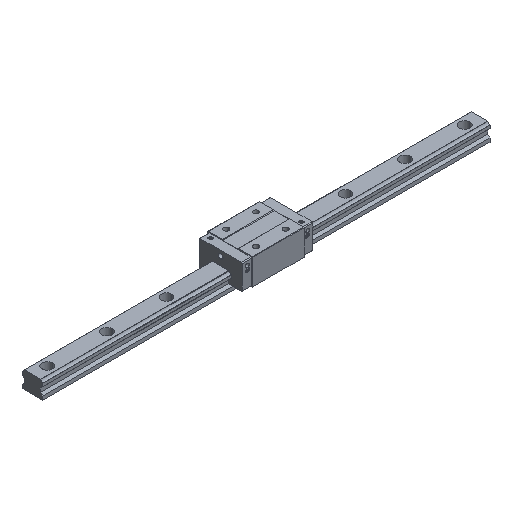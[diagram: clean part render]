
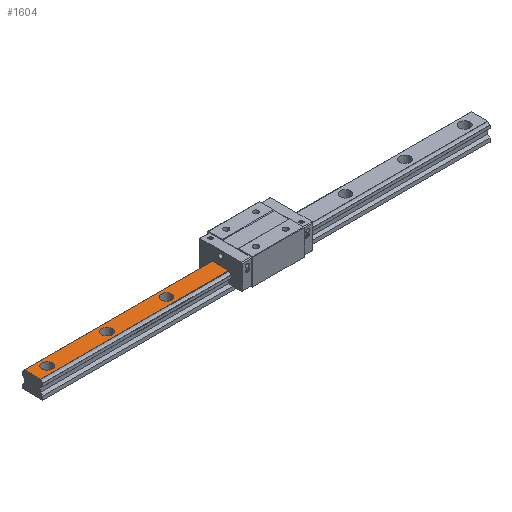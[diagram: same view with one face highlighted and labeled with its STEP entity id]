
A CAD part, isometric view. The second image highlights one B-rep face of the part: STEP entity #1604.
In plain terms, the highlighted planar face has unit normal (0, 0, 1).
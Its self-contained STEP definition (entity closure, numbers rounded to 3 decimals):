
#156 = CIRCLE ( 'NONE', #477, 7. ) ;
#477 = AXIS2_PLACEMENT_3D ( 'NONE', #16711, #18392, #3361 ) ;
#614 = CARTESIAN_POINT ( 'NONE',  ( -207., 0., 23. ) ) ;
#927 = EDGE_CURVE ( 'NONE', #15969, #7639, #14518, .T. ) ;
#1005 = EDGE_CURVE ( 'NONE', #5315, #15320, #11212, .T. ) ;
#1103 = LINE ( 'NONE', #13056, #7012 ) ;
#1184 = CARTESIAN_POINT ( 'NONE',  ( -120., 0., 23. ) ) ;
#1355 = VERTEX_POINT ( 'NONE', #11553 ) ;
#1604 = ADVANCED_FACE ( 'NONE', ( #3982, #19215, #10256, #7406 ), #17528, .F. ) ;
#1619 = CIRCLE ( 'NONE', #4104, 7. ) ;
#2047 = ORIENTED_EDGE ( 'NONE', *, *, #16602, .T. ) ;
#2109 = DIRECTION ( 'NONE',  ( 0., -1., 0. ) ) ;
#2782 = CARTESIAN_POINT ( 'NONE',  ( -300., 11.035, 23. ) ) ;
#3283 = AXIS2_PLACEMENT_3D ( 'NONE', #1184, #8711, #8611 ) ;
#3361 = DIRECTION ( 'NONE',  ( -1., 0., 0. ) ) ;
#3548 = DIRECTION ( 'NONE',  ( 1., 0., 0. ) ) ;
#3653 = ORIENTED_EDGE ( 'NONE', *, *, #9432, .T. ) ;
#3812 = ORIENTED_EDGE ( 'NONE', *, *, #927, .T. ) ;
#3982 = FACE_BOUND ( 'NONE', #15918, .T. ) ;
#4030 = ORIENTED_EDGE ( 'NONE', *, *, #1005, .T. ) ;
#4050 = DIRECTION ( 'NONE',  ( 0., 0., -1. ) ) ;
#4104 = AXIS2_PLACEMENT_3D ( 'NONE', #12573, #8435, #11002 ) ;
#4169 = CIRCLE ( 'NONE', #14176, 7. ) ;
#4817 = VECTOR ( 'NONE', #3548, 1000. ) ;
#5315 = VERTEX_POINT ( 'NONE', #2782 ) ;
#5509 = DIRECTION ( 'NONE',  ( -1., 0., 0. ) ) ;
#5519 = DIRECTION ( 'NONE',  ( -1., 0., 0. ) ) ;
#5586 = ORIENTED_EDGE ( 'NONE', *, *, #19183, .T. ) ;
#5798 = DIRECTION ( 'NONE',  ( 0., -1., 0. ) ) ;
#6061 = VERTEX_POINT ( 'NONE', #15815 ) ;
#6309 = CARTESIAN_POINT ( 'NONE',  ( -280., 0., 23. ) ) ;
#6406 = CIRCLE ( 'NONE', #3283, 7. ) ;
#6493 = LINE ( 'NONE', #12288, #4817 ) ;
#6570 = CARTESIAN_POINT ( 'NONE',  ( -120., 0., 23. ) ) ;
#7012 = VECTOR ( 'NONE', #5798, 1000. ) ;
#7210 = CARTESIAN_POINT ( 'NONE',  ( 300., 0., 23. ) ) ;
#7393 = DIRECTION ( 'NONE',  ( 0., 0., -1. ) ) ;
#7406 = FACE_OUTER_BOUND ( 'NONE', #13678, .T. ) ;
#7634 = CIRCLE ( 'NONE', #10152, 7. ) ;
#7639 = VERTEX_POINT ( 'NONE', #614 ) ;
#7736 = EDGE_CURVE ( 'NONE', #16678, #12828, #1103, .T. ) ;
#8001 = CARTESIAN_POINT ( 'NONE',  ( -287., 0., 23. ) ) ;
#8040 = DIRECTION ( 'NONE',  ( -1., 0., 0. ) ) ;
#8258 = CARTESIAN_POINT ( 'NONE',  ( -47.35, -11.035, 23. ) ) ;
#8291 = EDGE_CURVE ( 'NONE', #15320, #12828, #6493, .T. ) ;
#8386 = EDGE_LOOP ( 'NONE', ( #10164, #16247 ) ) ;
#8435 = DIRECTION ( 'NONE',  ( 0., 0., -1. ) ) ;
#8611 = DIRECTION ( 'NONE',  ( -1., 0., 0. ) ) ;
#8703 = EDGE_LOOP ( 'NONE', ( #3812, #3653 ) ) ;
#8711 = DIRECTION ( 'NONE',  ( 0., 0., -1. ) ) ;
#8760 = AXIS2_PLACEMENT_3D ( 'NONE', #7210, #13011, #13106 ) ;
#9432 = EDGE_CURVE ( 'NONE', #7639, #15969, #156, .T. ) ;
#9617 = CARTESIAN_POINT ( 'NONE',  ( -300., -11.035, 23. ) ) ;
#10133 = AXIS2_PLACEMENT_3D ( 'NONE', #18990, #4050, #5519 ) ;
#10152 = AXIS2_PLACEMENT_3D ( 'NONE', #6309, #7393, #12103 ) ;
#10164 = ORIENTED_EDGE ( 'NONE', *, *, #10449, .T. ) ;
#10256 = FACE_BOUND ( 'NONE', #8386, .T. ) ;
#10449 = EDGE_CURVE ( 'NONE', #18903, #12544, #1619, .T. ) ;
#11002 = DIRECTION ( 'NONE',  ( -1., 0., 0. ) ) ;
#11064 = VECTOR ( 'NONE', #2109, 1000. ) ;
#11110 = ORIENTED_EDGE ( 'NONE', *, *, #13737, .T. ) ;
#11212 = LINE ( 'NONE', #17207, #11064 ) ;
#11553 = CARTESIAN_POINT ( 'NONE',  ( -113., 0., 23. ) ) ;
#12103 = DIRECTION ( 'NONE',  ( -1., 0., 0. ) ) ;
#12288 = CARTESIAN_POINT ( 'NONE',  ( 300., -11.035, 23. ) ) ;
#12302 = ORIENTED_EDGE ( 'NONE', *, *, #7736, .F. ) ;
#12544 = VERTEX_POINT ( 'NONE', #8001 ) ;
#12573 = CARTESIAN_POINT ( 'NONE',  ( -280., 0., 23. ) ) ;
#12828 = VERTEX_POINT ( 'NONE', #8258 ) ;
#12970 = LINE ( 'NONE', #19072, #18003 ) ;
#13011 = DIRECTION ( 'NONE',  ( 0., 0., -1. ) ) ;
#13056 = CARTESIAN_POINT ( 'NONE',  ( -47.35, -11.035, 23. ) ) ;
#13106 = DIRECTION ( 'NONE',  ( 0., -1., 0. ) ) ;
#13678 = EDGE_LOOP ( 'NONE', ( #16108, #12302, #5586, #4030 ) ) ;
#13737 = EDGE_CURVE ( 'NONE', #6061, #1355, #4169, .T. ) ;
#14176 = AXIS2_PLACEMENT_3D ( 'NONE', #6570, #15521, #8040 ) ;
#14518 = CIRCLE ( 'NONE', #10133, 7. ) ;
#15320 = VERTEX_POINT ( 'NONE', #9617 ) ;
#15521 = DIRECTION ( 'NONE',  ( 0., 0., -1. ) ) ;
#15676 = CARTESIAN_POINT ( 'NONE',  ( -193., 0., 23. ) ) ;
#15815 = CARTESIAN_POINT ( 'NONE',  ( -127., 0., 23. ) ) ;
#15918 = EDGE_LOOP ( 'NONE', ( #2047, #11110 ) ) ;
#15969 = VERTEX_POINT ( 'NONE', #15676 ) ;
#16108 = ORIENTED_EDGE ( 'NONE', *, *, #8291, .T. ) ;
#16247 = ORIENTED_EDGE ( 'NONE', *, *, #18899, .T. ) ;
#16602 = EDGE_CURVE ( 'NONE', #1355, #6061, #6406, .T. ) ;
#16667 = CARTESIAN_POINT ( 'NONE',  ( -47.35, 11.035, 23. ) ) ;
#16678 = VERTEX_POINT ( 'NONE', #16667 ) ;
#16711 = CARTESIAN_POINT ( 'NONE',  ( -200., 0., 23. ) ) ;
#17207 = CARTESIAN_POINT ( 'NONE',  ( -300., 0., 23. ) ) ;
#17528 = PLANE ( 'NONE',  #8760 ) ;
#18003 = VECTOR ( 'NONE', #5509, 1000. ) ;
#18200 = CARTESIAN_POINT ( 'NONE',  ( -273., 0., 23. ) ) ;
#18392 = DIRECTION ( 'NONE',  ( 0., 0., -1. ) ) ;
#18899 = EDGE_CURVE ( 'NONE', #12544, #18903, #7634, .T. ) ;
#18903 = VERTEX_POINT ( 'NONE', #18200 ) ;
#18990 = CARTESIAN_POINT ( 'NONE',  ( -200., 0., 23. ) ) ;
#19072 = CARTESIAN_POINT ( 'NONE',  ( 300., 11.035, 23. ) ) ;
#19183 = EDGE_CURVE ( 'NONE', #16678, #5315, #12970, .T. ) ;
#19215 = FACE_BOUND ( 'NONE', #8703, .T. ) ;
